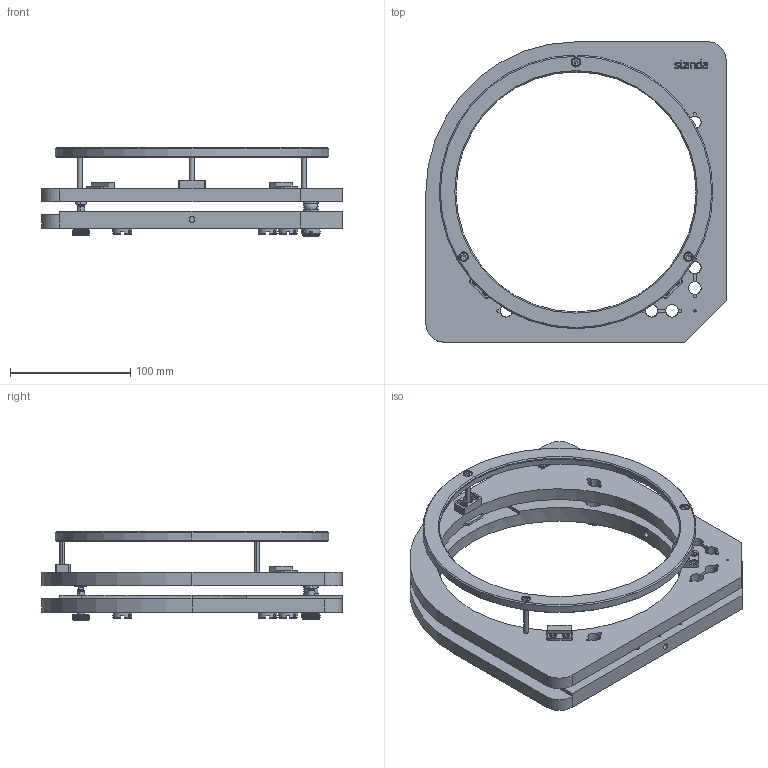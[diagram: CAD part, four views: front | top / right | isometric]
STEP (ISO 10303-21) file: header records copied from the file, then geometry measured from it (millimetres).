
FILE_DESCRIPTION((''),'2;1');
FILE_NAME('5LAM126-8-41 SB.stp','2017-10-10T15:11:32',(''),(''),'Mechanical Desktop 2011','Mechanical Desktop 2011',', , ');
FILE_SCHEMA(('CONFIG_CONTROL_DESIGN'));
Length unit declared in the file: millimetre
Products named in the file (1): Product
Bounding box: 250 x 250 x 73.91 mm (x, y, z)
Volume: 653252.5 mm3; surface area: 191016.4 mm2
Topology: 1 solids, 15 shells, 2683 faces, 7581 edges, 4990 vertices
Faces by surface type: plane 1056, cylinder 948, bspline 469, cone 158, torus 34, sphere 18
Entity records: 96545 total; most frequent: CARTESIAN_POINT 31401, ORIENTED_EDGE 15054, DIRECTION 12140, EDGE_CURVE 7527, VERTEX_POINT 4990, AXIS2_PLACEMENT_3D 4471, VECTOR 3198, LINE 3198
